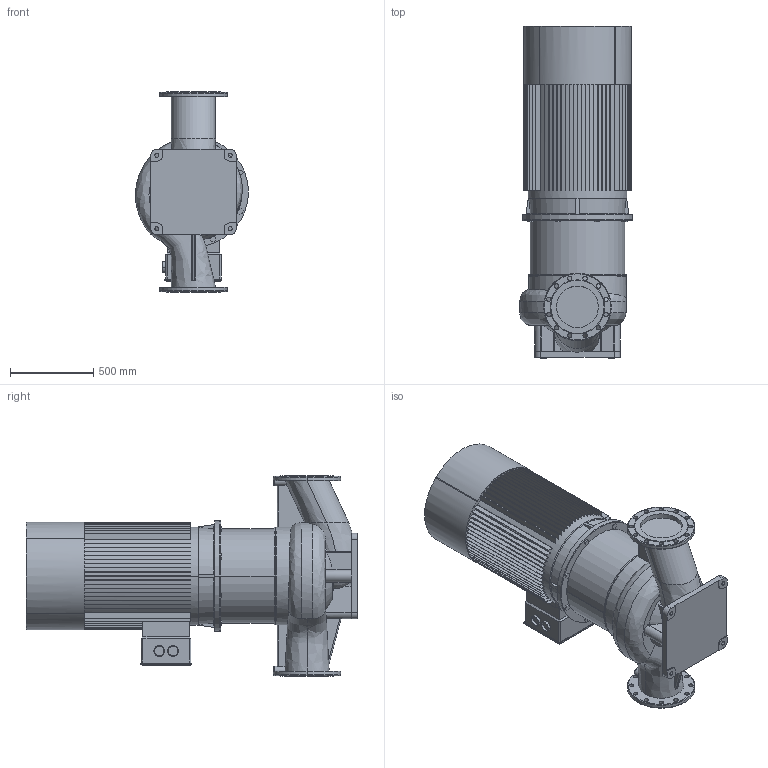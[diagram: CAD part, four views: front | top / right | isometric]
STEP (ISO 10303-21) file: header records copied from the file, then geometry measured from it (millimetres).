
FILE_DESCRIPTION (( 'STEP AP203' ), '1' );
FILE_NAME ('TD250-50_4.STEP', '2022-05-02T18:09:50', ( '' ), ( '' ), 'SwSTEP 2.0', 'SolidWorks 2019', '' );
FILE_SCHEMA (( 'CONFIG_CONTROL_DESIGN' ));
Length unit declared in the file: millimetre
Products named in the file (4): Fon_250_TD250-50_4; Pr_ch 250_TD250-50_4; TD250-50_4; ED_B5_YE2-315M-4 (132)
Assembly tree (3 placements, depth 2):
  TD250-50_4
    Pr_ch 250_TD250-50_4
    Fon_250_TD250-50_4
    ED_B5_YE2-315M-4 (132)
Bounding box: 677.5 x 1990 x 1200 mm (x, y, z)
Volume: 515123616.9 mm3; surface area: 10159107.1 mm2
Topology: 13 solids, 13 shells, 827 faces, 2261 edges, 1498 vertices
Faces by surface type: plane 568, cylinder 187, torus 33, bspline 22, cone 17
Entity records: 35583 total; most frequent: CARTESIAN_POINT 13735, ORIENTED_EDGE 4522, DIRECTION 4448, EDGE_CURVE 2261, AXIS2_PLACEMENT_3D 1528, VERTEX_POINT 1498, VECTOR 1392, LINE 1392
